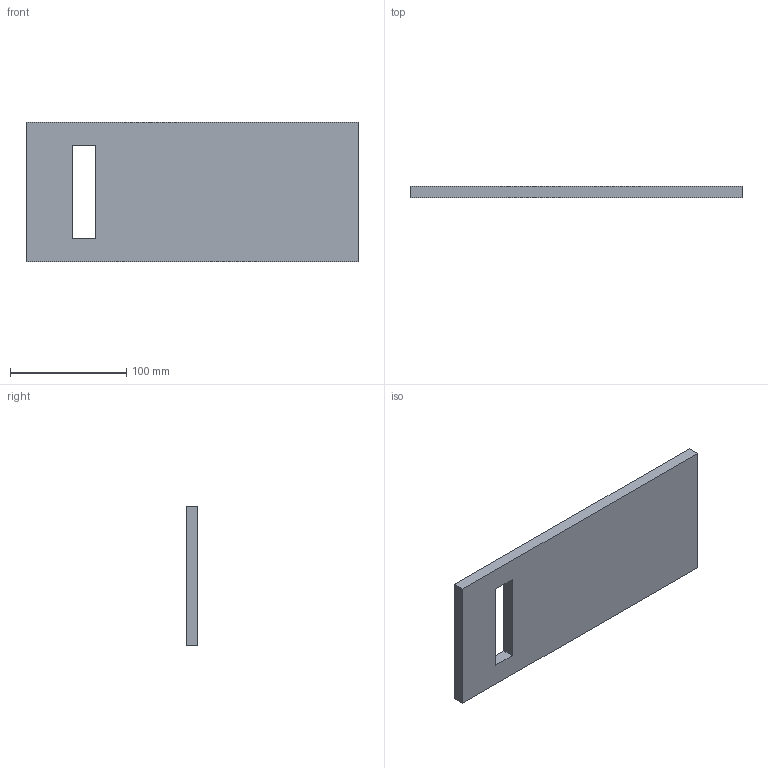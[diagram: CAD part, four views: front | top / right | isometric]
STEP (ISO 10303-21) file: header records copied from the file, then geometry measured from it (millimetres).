
FILE_DESCRIPTION (( 'STEP AP214' ), '1' );
FILE_NAME ('Back.STEP', '2018-05-10T20:44:36', ( '' ), ( '' ), 'SwSTEP 2.0', 'SolidWorks 2015', '' );
FILE_SCHEMA (( 'AUTOMOTIVE_DESIGN' ));
Length unit declared in the file: millimetre
Products named in the file (1): Back
Bounding box: 285 x 10 x 120 mm (x, y, z)
Volume: 326000 mm3; surface area: 75300 mm2
Topology: 1 solids, 1 shells, 10 faces, 24 edges, 16 vertices
Faces by surface type: plane 10
Entity records: 326 total; most frequent: CARTESIAN_POINT 51, ORIENTED_EDGE 48, DIRECTION 46, LINE 24, VECTOR 24, EDGE_CURVE 24, VERTEX_POINT 16, EDGE_LOOP 12
